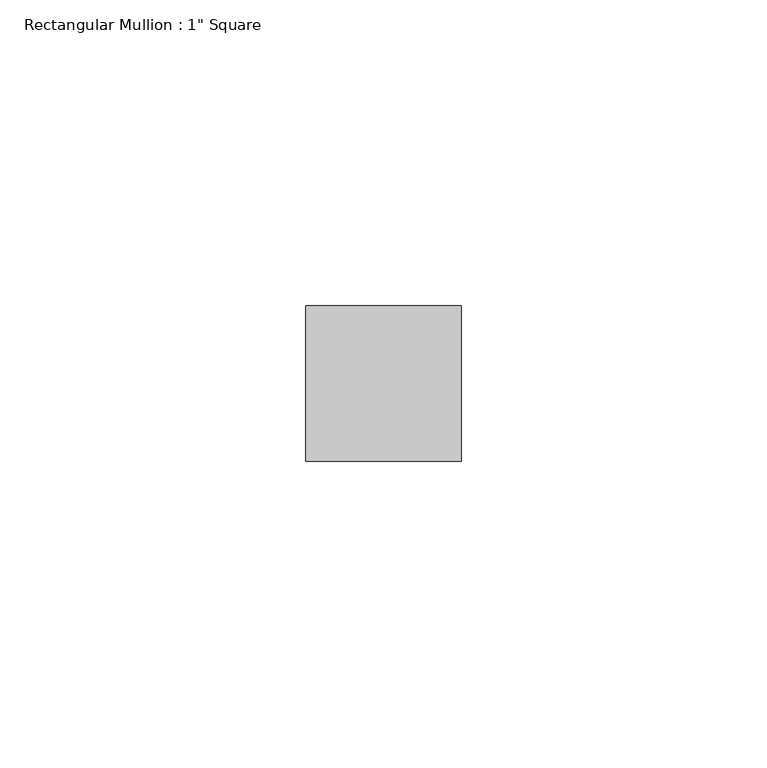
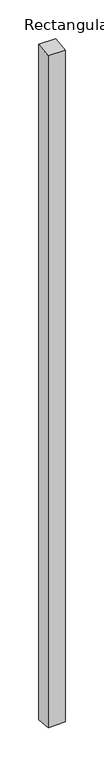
"""IFC4 building model written with IfcOpenShell, lengths in millimetres: member geometry."""

import ifcopenshell
import ifcopenshell.guid

model = None  # the IFC model being written
_history = None  # IfcOwnerHistory: only IFC2X3 demands one
_inside = {}  # id of a spatial element -> (the spatial element, [elements in it])
_under = {}  # id of a project, library or spatial element -> (it, [spatial elements below it])
_declared = {}  # id of a project -> (the project, [libraries it declares])
_typed = {}  # id of a type object -> (the type object, [elements of that type])
_made_of = {}  # id of a material, layer set ... -> (it, [elements and type objects made of it])


def new_model(schema):
    """Start an empty IFC model of exactly this schema.

    Asked for "IFC4X3", IfcOpenShell would pick the latest addendum, in which some entities
    have other attributes; the version numbers below select the first issue.
    IFC2X3 requires an IfcOwnerHistory on every rooted entity: one is made here for all.
    """
    global model, _history
    if schema == "IFC4X3":
        model = ifcopenshell.file(schema_version=(4, 3, 0, 0))
    else:
        model = ifcopenshell.file(schema=schema)
    _inside.clear()
    _under.clear()
    _declared.clear()
    _typed.clear()
    _made_of.clear()
    _history = None
    if model.schema == "IFC2X3":
        org = make("IfcOrganization", Name="unknown")
        user = make(
            "IfcPersonAndOrganization",
            ThePerson=make("IfcPerson", FamilyName="unknown"),
            TheOrganization=org,
        )
        app = make(
            "IfcApplication",
            ApplicationDeveloper=org,
            Version="unknown",
            ApplicationFullName="unknown",
            ApplicationIdentifier="unknown",
        )
        _history = make(
            "IfcOwnerHistory",
            OwningUser=user,
            OwningApplication=app,
            ChangeAction="ADDED",
            CreationDate=0,
        )
    return model


def make(cls, **values):
    """One entity of the class cls with the attributes given. An attribute that is None is left unset."""
    return model.create_entity(
        cls, **{name: value for name, value in values.items() if value is not None}
    )


def rooted(cls, **values):
    """An entity with a GlobalId (a new one), such as an element, a storey or a relation."""
    return make(cls, GlobalId=ifcopenshell.guid.new(), OwnerHistory=_history, **values)


def si_unit(unit_type, name, prefix=None):
    """IfcSIUnit, for example si_unit("LENGTHUNIT", "METRE", prefix="MILLI")."""
    return make("IfcSIUnit", UnitType=unit_type, Prefix=prefix, Name=name)


def assignment(units):
    """IfcUnitAssignment: the units of a project."""
    return None if units is None else make("IfcUnitAssignment", Units=units)


def point(xyz):
    """IfcCartesianPoint."""
    return None if xyz is None else make("IfcCartesianPoint", Coordinates=xyz)


def direction(xyz):
    """IfcDirection."""
    return None if xyz is None else make("IfcDirection", DirectionRatios=xyz)


def frame(location, z_axis=None, x_axis=None):
    """IfcAxis2Placement3D, a coordinate frame: its origin and axes. An axis left out is left unset."""
    return make(
        "IfcAxis2Placement3D",
        Location=point(location),
        Axis=direction(z_axis),
        RefDirection=direction(x_axis),
    )


def origin():
    """The frame at (0, 0, 0) with its axes left unset."""
    return frame((0.0, 0.0, 0.0))


def place(relative_to, where):
    """IfcLocalPlacement: puts the frame where relative to a parent placement (None: the world)."""
    return make(
        "IfcLocalPlacement", PlacementRelTo=relative_to, RelativePlacement=where
    )


def context(
    kind, dimensions, precision=None, world=None, true_north=None, identifier=None
):
    """IfcGeometricRepresentationContext, for example the 3D "Model" context."""
    return make(
        "IfcGeometricRepresentationContext",
        ContextIdentifier=identifier,
        ContextType=kind,
        CoordinateSpaceDimension=dimensions,
        Precision=precision,
        WorldCoordinateSystem=world,
        TrueNorth=true_north,
    )


def project(units=None, contexts=None):
    """IfcProject with its units and contexts."""
    return rooted(
        "IfcProject",
        Name="project",
        RepresentationContexts=contexts,
        UnitsInContext=assignment(units),
    )


def spatial(cls, under=None, at=None, **own):
    """A site, building, storey or space (cls), placed at a placement, below another one or the project."""
    s = rooted(cls, ObjectPlacement=at, **own)
    if under is not None:
        _under.setdefault(under.id(), (under, []))[1].append(s)
    return s


def polyline(points):
    """IfcPolyline through the points."""
    return make("IfcPolyline", Points=[point(p) for p in points])


def outline(outer, holes=None, kind="AREA"):
    """IfcArbitraryClosedProfileDef: a profile drawn as a closed curve; with holes, ...WithVoids."""
    if holes is None:
        return make("IfcArbitraryClosedProfileDef", ProfileType=kind, OuterCurve=outer)
    return make(
        "IfcArbitraryProfileDefWithVoids",
        ProfileType=kind,
        OuterCurve=outer,
        InnerCurves=holes,
    )


def extrude(swept, where, along, depth):
    """IfcExtrudedAreaSolid: the profile swept, set in the frame where, extruded along a direction by depth."""
    return make(
        "IfcExtrudedAreaSolid",
        SweptArea=swept,
        Position=where,
        ExtrudedDirection=direction(along),
        Depth=depth,
    )


def shape(context_of_items, identifier, shape_type, items):
    """IfcShapeRepresentation: the items that make up one representation, for example the "Body"."""
    return make(
        "IfcShapeRepresentation",
        ContextOfItems=context_of_items,
        RepresentationIdentifier=identifier,
        RepresentationType=shape_type,
        Items=items,
    )


def source(mapping_origin, context_of_items, identifier, shape_type, items):
    """IfcRepresentationMap: a shape defined once, which mapped items show again and again."""
    return make(
        "IfcRepresentationMap",
        MappingOrigin=mapping_origin,
        MappedRepresentation=shape(context_of_items, identifier, shape_type, items),
    )


def transform(
    local_origin,
    x_axis=None,
    y_axis=None,
    z_axis=None,
    scale=None,
    scale2=None,
    scale3=None,
    uniform=True,
):
    """IfcCartesianTransformationOperator3D, or its non-uniform kind. x_axis, y_axis, z_axis: its Axis1, 2, 3."""
    if uniform:
        return make(
            "IfcCartesianTransformationOperator3D",
            Axis1=direction(x_axis),
            Axis2=direction(y_axis),
            LocalOrigin=point(local_origin),
            Scale=scale,
            Axis3=direction(z_axis),
        )
    return make(
        "IfcCartesianTransformationOperator3DnonUniform",
        Axis1=direction(x_axis),
        Axis2=direction(y_axis),
        LocalOrigin=point(local_origin),
        Scale=scale,
        Axis3=direction(z_axis),
        Scale2=scale2,
        Scale3=scale3,
    )


def mapped(mapping_source, mapping_target):
    """IfcMappedItem: shows the shape of a source again, moved by a transform."""
    return make(
        "IfcMappedItem", MappingSource=mapping_source, MappingTarget=mapping_target
    )


def made_of(thing, what):
    """Note that an element or type object is made of a material, layer set ...; save() writes the relation."""
    if what is not None:
        _made_of.setdefault(what.id(), (what, []))[1].append(thing)
    return thing


def element(
    cls,
    number,
    at=None,
    inside=None,
    cuts=None,
    type_object=None,
    material=None,
    context=None,
    identifier="Body",
    shape_type=None,
    held_by="IfcProductDefinitionShape",
    body=None,
    shapes=None,
    **own,
):
    """One element of the class cls, such as IfcWall. Its Tag is "e" and its number.

    at: its placement. inside: the storey or other place that contains it. cuts: it is an
    opening in that element (IfcRelVoidsElement). A single representation is given by context,
    identifier, shape_type and body (its items); several are given by shapes. held_by: the class
    of the entity that holds the representations. save() writes the other relations.
    """
    e = rooted(cls, Tag="e%d" % number, ObjectPlacement=at, **own)
    if body is not None:
        shapes = [shape(context, identifier, shape_type, body)]
    if shapes is not None:
        e.Representation = make(held_by, Representations=shapes)
    if inside is not None:
        _inside.setdefault(inside.id(), (inside, []))[1].append(e)
    if cuts is not None:
        rooted(
            "IfcRelVoidsElement", RelatingBuildingElement=cuts, RelatedOpeningElement=e
        )
    if type_object is not None:
        _typed.setdefault(type_object.id(), (type_object, []))[1].append(e)
    return made_of(e, material)


def aggregate(whole, parts):
    """IfcRelAggregates: a whole, such as a stair, and the parts it consists of."""
    return rooted("IfcRelAggregates", RelatingObject=whole, RelatedObjects=parts)


def save(model, path):
    """Write the relations noted so far, then the file.

    IfcRelAggregates (storeys below a building ...), IfcRelContainedInSpatialStructure (elements
    in a storey), IfcRelDefinesByType, IfcRelAssociatesMaterial and IfcRelDeclares: one each for
    every whole, place, type object, material and project.
    """
    for whole, parts in _under.values():
        aggregate(whole, parts)
    for where, things in _inside.values():
        rooted(
            "IfcRelContainedInSpatialStructure",
            RelatedElements=things,
            RelatingStructure=where,
        )
    for kind, things in _typed.values():
        rooted("IfcRelDefinesByType", RelatedObjects=things, RelatingType=kind)
    for what, things in _made_of.values():
        rooted("IfcRelAssociatesMaterial", RelatedObjects=things, RelatingMaterial=what)
    for by, libraries in _declared.values():
        rooted("IfcRelDeclares", RelatingContext=by, RelatedDefinitions=libraries)
    model.write(path)


def member_19a4d049(model_context):
    return source(origin(), model_context, "Body", "SweptSolid", [
        extrude(outline(polyline([(-12.7, -1.4918543), (12.7, 1.4918543), (12.7, -1068.2918543), (-12.7, -1065.3081457), (-12.7, -1.4918543)])), frame((-12.7, 0.0, 0.0), z_axis=(1.0, 0.0, 0.0), x_axis=(0.0, 1.0, 0.0)), (0.0, 0.0, 1.0), 25.4),
    ])


if __name__ == "__main__":
    model = new_model("IFC4")
    model_context = context("Model", 3, world=origin())
    ifc_project = project(units=[si_unit("LENGTHUNIT", "METRE", prefix="MILLI")], contexts=[model_context])
    site = spatial("IfcSite", under=ifc_project)
    building = spatial("IfcBuilding", under=site)
    placement = place(None, origin())
    member_shape = member_19a4d049(model_context)
    element("IfcMember", 1, ObjectType="Rectangular Mullion : 1\" Square", at=placement, inside=building, context=model_context, shape_type="MappedRepresentation", body=[
        mapped(member_shape, transform((0.0, 0.0, 0.0), x_axis=(1.0, 0.0, 0.0), y_axis=(0.0, 1.0, 0.0), z_axis=(0.0, 0.0, 1.0))),
    ])
    save(model, "model.ifc")
